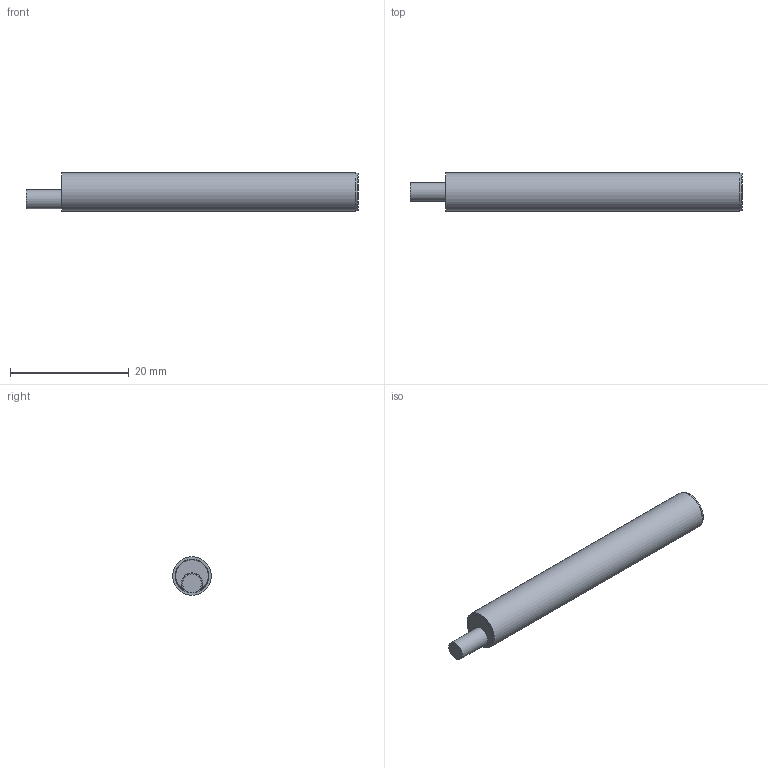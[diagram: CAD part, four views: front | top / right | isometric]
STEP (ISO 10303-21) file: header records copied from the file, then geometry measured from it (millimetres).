
FILE_DESCRIPTION( ( 'Unknown' ), '1' );
FILE_NAME( '//baumerholding.org/frauenfeld/bereich/BECH/Services/me_CAD/Solid Edge/Models/Dokumentationen/Induktiv/IxRx 06/Vereinfachte Modelle/Neutralformate/IFRM 06xxxA4_L.stp', 'Unknown', ( 'Unknown' ), ( 'Unknown' ), 'XStep 1.0', 'Unknown', ' ' );
FILE_SCHEMA( ( 'CONFIG_CONTROL_DESIGN' ) );
Length unit declared in the file: millimetre
Products named in the file (1): 132120
Bounding box: 55.95 x 6.5 x 6.5 mm (x, y, z)
Volume: 1705 mm3; surface area: 1149.3 mm2
Topology: 1 solids, 1 shells, 17 faces, 35 edges, 24 vertices
Faces by surface type: plane 10, cylinder 4, cone 3
Full cylindrical faces by diameter (mm): 3.2 x1, 5.7 x1, 6.4 x1, 6.5 x1
Entity records: 456 total; most frequent: CARTESIAN_POINT 84, DIRECTION 70, ORIENTED_EDGE 54, AXIS2_PLACEMENT_3D 31, EDGE_CURVE 27, EDGE_LOOP 26, FACE_OUTER_BOUND 21, VERTEX_POINT 21
